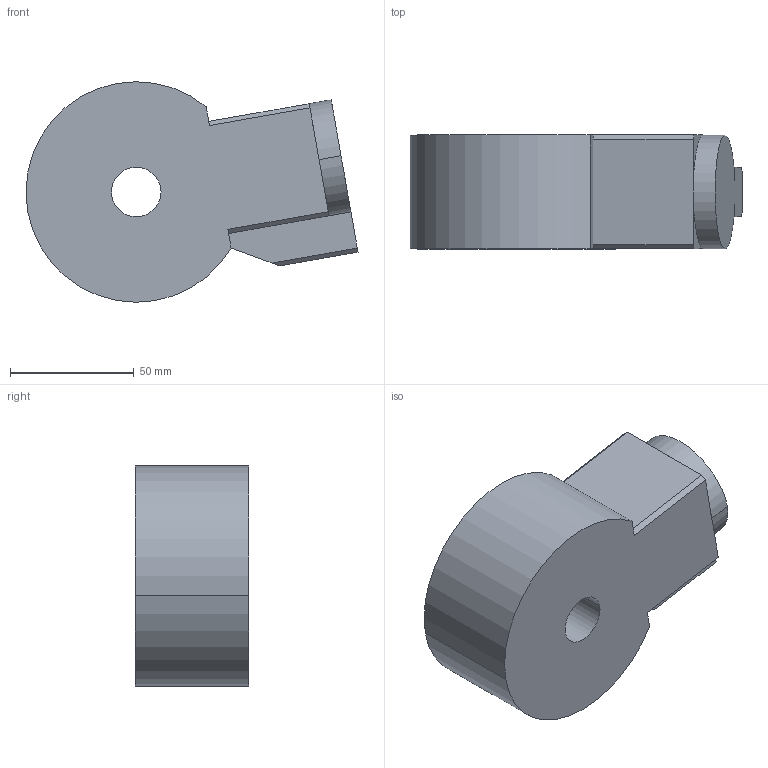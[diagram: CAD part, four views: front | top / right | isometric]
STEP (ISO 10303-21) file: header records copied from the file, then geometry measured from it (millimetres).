
FILE_DESCRIPTION (( 'STEP AP214' ), '1' );
FILE_NAME ('Joint4.STEP', '2019-03-22T05:11:38', ( '' ), ( '' ), 'SwSTEP 2.0', 'SolidWorks 2018', '' );
FILE_SCHEMA (( 'AUTOMOTIVE_DESIGN' ));
Length unit declared in the file: millimetre
Products named in the file (2): Scorbot_ER9-4_Predeterminado; Joint4
Assembly tree (1 placements, depth 2):
  Joint4
    Scorbot_ER9-4_Predeterminado
Bounding box: 134.12 x 46 x 89.08 mm (x, y, z)
Volume: 368980.6 mm3; surface area: 37242.5 mm2
Topology: 1 solids, 1 shells, 29 faces, 74 edges, 47 vertices
Faces by surface type: plane 23, cylinder 6
Entity records: 935 total; most frequent: CARTESIAN_POINT 154, DIRECTION 153, ORIENTED_EDGE 148, EDGE_CURVE 74, VECTOR 61, LINE 61, VERTEX_POINT 47, AXIS2_PLACEMENT_3D 46
